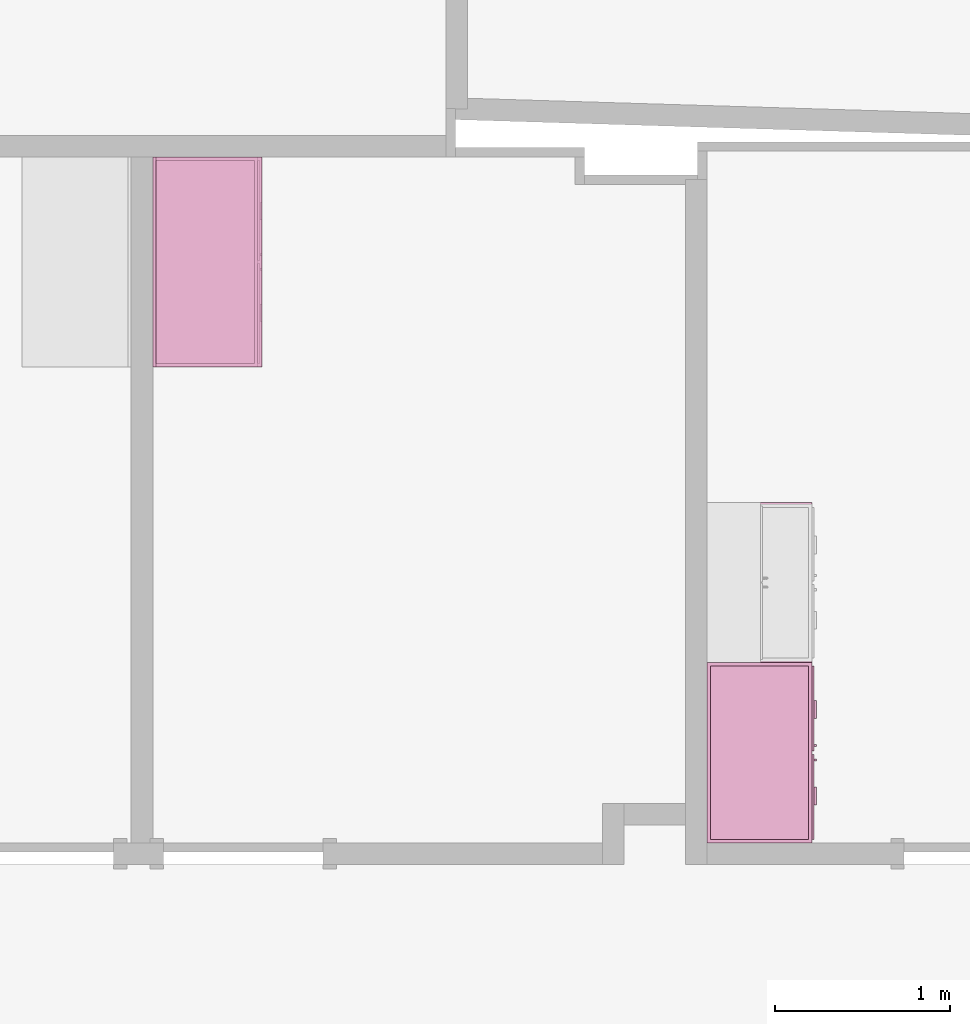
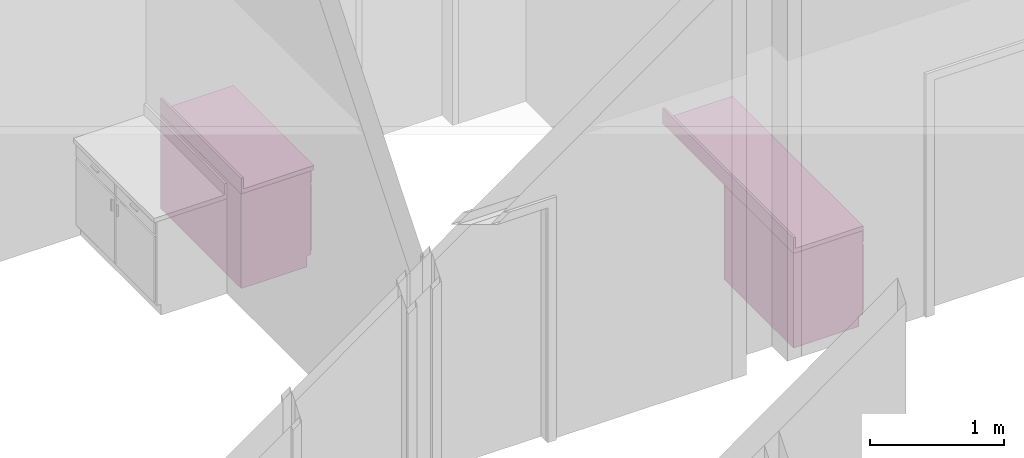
# One storey, part 79 of 82: 4 furnishings, 1 opening.
"""IFC2X3 building model written with IfcOpenShell, lengths in metres."""

from ifc_helpers import new_model, entity, si_unit, converted_unit, frame, frame_2d, origin, origin_2d_with_axis, place, context, project, spatial, polyline, circle_curve, parameter, trimmed, segment, composite_curve, rectangle, outline, extrude, face_set, surface_model, source, transform, mapped, type_object, type_shapes, element, save


model = new_model("IFC2X3")

# Units and contexts
model_context = context("Model", 3, precision=1e-09, world=origin())
plan_context = context("Plan", 3, precision=1e-09, world=origin())
ifc_project = project(units=[si_unit("LENGTHUNIT", "METRE"), si_unit("AREAUNIT", "SQUARE_METRE"), si_unit("VOLUMEUNIT", "CUBIC_METRE"), converted_unit("PLANEANGLEUNIT", "DEGREE", entity("IfcRatioMeasure", 0.01745329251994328), si_unit("PLANEANGLEUNIT", "RADIAN"), dimensions=[0, 0, 0, 0, 0, 0, 0]), si_unit("TIMEUNIT", "SECOND")], contexts=[model_context, plan_context])

# Site, building, storey, space
site_placement = place(None, origin())
site = spatial("IfcSite", under=ifc_project, at=site_placement, Name="Default", CompositionType="ELEMENT")
building_placement = place(site_placement, origin())
building = spatial("IfcBuilding", under=site, at=building_placement, CompositionType="ELEMENT")
storey_placement = place(building_placement, origin())
storey = spatial("IfcBuildingStorey", under=building, at=storey_placement, Name="First Floor", CompositionType="ELEMENT", Elevation=-3.531500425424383e-13)
space_1_placement = place(storey_placement, origin())
space_1 = spatial("IfcSpace", under=storey, at=space_1_placement, Name="1D07", CompositionType="ELEMENT", InteriorOrExteriorSpace="INTERNAL")

# Furnishing, opening
furniture_type_1 = type_object("IfcFurnitureType", Name="600mm Depth", AssemblyPlace="NOTDEFINED")
shared_shape_1 = source(origin(), model_context, "Body", "SweptSolid", [
    extrude(outline(polyline([(-0.0605333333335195, -0.2146833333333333), (0.08106666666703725, -0.2146833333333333), (0.08106666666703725, -0.1956333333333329), (-0.02053333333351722, -0.1956333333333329), (-0.02053333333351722, 0.4103166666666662), (-0.0605333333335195, 0.4103166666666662), (-0.0605333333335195, -0.2146833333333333)])), frame((-1.200462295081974, -0.2146833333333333, 0.920533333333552), z_axis=(1.0, 0.0, 0.0), x_axis=(0.0, 0.0, 1.0)), (0.0, 0.0, 1.0), 1.200000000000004),
])
type_shapes(furniture_type_1, [shared_shape_1])
furnishing_1_placement = place(space_1_placement, frame((-29.08600000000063, 44.70646229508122, 0.0), z_axis=(0.0, 0.0, 1.0), x_axis=(0.0, 1.0, 0.0)))
furnishing_1 = element("IfcFurnishingElement", 1, at=furnishing_1_placement, inside=space_1, type_object=furniture_type_1, Name="M_Counter Top w Sink Hole:600mm Depth:600mm Depth", ObjectType="600mm Depth", context=model_context, shape_type="MappedRepresentation", body=[
    mapped(shared_shape_1, transform((0.0, 0.0, 0.0), scale=1.0)),
])
opening_placement = place(space_1_placement, frame((-29.08600000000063, 44.70646229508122, 0.0), z_axis=(0.0, 0.0, 1.0), x_axis=(0.0, 1.0, 0.0)))
element("IfcOpeningElement", 2, at=opening_placement, cuts=furnishing_1, Name="M_Counter Top w Sink Hole:600mm Depth:600mm Depth:1", ObjectType="Opening", context=model_context, shape_type="SweptSolid", body=[
    extrude(outline(composite_curve([segment(polyline([(-0.255399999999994, -0.2083292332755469), (0.2554000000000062, -0.2083292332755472)]), True, "CONTINUOUS"), segment(trimmed(circle_curve(frame_2d((0.2554000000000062, -0.1575292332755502), x_axis=(-1.0, 0.0)), 0.05079999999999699), [parameter(89.99999999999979)], [parameter(180.0000000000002)], True, "PARAMETER"), True, "CONTINUOUS"), segment(polyline([(0.3062000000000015, -0.1575292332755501), (0.3062000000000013, 0.1575292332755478)]), True, "CONTINUOUS"), segment(trimmed(circle_curve(frame_2d((0.2554000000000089, 0.1575292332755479), x_axis=(-1.0, 0.0)), 0.0507999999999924), [parameter(179.9999999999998)], [parameter(269.9999999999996)], True, "PARAMETER"), True, "CONTINUOUS"), segment(polyline([(0.2554000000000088, 0.2083292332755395), (-0.2554000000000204, 0.2083292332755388)]), True, "CONTINUOUS"), segment(trimmed(circle_curve(frame_2d((-0.2554000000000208, 0.1575292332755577), x_axis=(-1.0, 0.0)), 0.05079999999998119), [parameter(269.9999999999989)], [parameter(359.9999999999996)], True, "PARAMETER"), True, "CONTINUOUS"), segment(polyline([(-0.3062000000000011, 0.1575292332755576), (-0.306200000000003, -0.1575292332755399)]), True, "CONTINUOUS"), segment(trimmed(circle_curve(frame_2d((-0.2553999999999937, -0.1575292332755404), x_axis=(-1.0, 0.0)), 0.05080000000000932), [parameter(359.9999999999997)], [parameter(90.00000000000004)], True, "PARAMETER"), True, "CONTINUOUS")], self_intersect=False)), frame((-0.3653589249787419, 0.6004622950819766, 0.8600000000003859), z_axis=(0.0, 0.0, 1.0), x_axis=(0.0, 1.0, 0.0)), (0.0, 0.0, 1.0), 0.04000000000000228),
])

# Furnishing
furniture_type_2 = type_object("IfcFurnitureType", Name="1200mm", AssemblyPlace="NOTDEFINED")
shared_shape_2 = source(origin(), model_context, "Body", "SurfaceModel", [
    surface_model("IfcFaceBasedSurfaceModel", [(1.180949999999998, 0.04445000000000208, 0.86000000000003), (1.180949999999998, 0.04445000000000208, 0.09999999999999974), (0.01905000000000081, 0.04445000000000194, 0.09999999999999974), (0.01905000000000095, 0.04445000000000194, 0.86000000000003), (1.2, 0.02540000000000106, 0.8600000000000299), (0.0, 0.02540000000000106, 0.8600000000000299), (1.2, 0.02540000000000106, 0.09999999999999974), (0.0, 0.02540000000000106, 0.0999999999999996), (0.01905000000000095, 0.6063499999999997, 0.86000000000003), (0.01905000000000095, 0.6063499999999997, 0.09999999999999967), (0.01905000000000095, 0.06040000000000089, 0.09999999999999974), (0.0, 0.6254000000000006, 0.8600000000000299), (0.0, 0.6254000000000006, 0.0), (0.0, 0.06040000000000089, 0.0), (0.0, 0.06040000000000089, 0.09999999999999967), (1.180949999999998, 0.6063499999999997, 0.86000000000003), (1.180949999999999, 0.6063499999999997, 0.09999999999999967), (1.2, 0.6254000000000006, 0.8600000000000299), (1.2, 0.6254000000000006, 0.0), (1.180949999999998, 0.06040000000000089, 0.09999999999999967), (1.2, 0.06040000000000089, 0.09999999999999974), (1.2, 0.06040000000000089, 0.0), (0.3603250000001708, 0.0, 0.8155500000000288), (0.3603250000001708, 0.0, 0.8028500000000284), (0.258725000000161, 0.0, 0.8028500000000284), (0.258725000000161, 0.0, 0.8155500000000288), (0.9412750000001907, 0.0, 0.8155500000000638), (0.9412750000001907, 0.0, 0.8028500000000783), (0.8396750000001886, 0.0, 0.8028500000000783), (0.8396750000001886, 0.0, 0.8155500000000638), (0.5650750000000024, 0.0, 0.6822000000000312), (0.5650750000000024, 0.0, 0.5806000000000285), (0.5523750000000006, 0.0, 0.5806000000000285), (0.5523750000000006, 0.0, 0.6822000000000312), (0.6476249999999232, 0.0, 0.6822000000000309), (0.6476249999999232, 0.0, 0.5806000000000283), (0.6349249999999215, 0.0, 0.5806000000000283), (0.6349249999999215, 0.0, 0.6822000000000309), (0.3603250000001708, 0.01270000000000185, 0.8155500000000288), (0.3603250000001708, 0.01270000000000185, 0.8028500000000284), (0.2587250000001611, 0.01270000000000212, 0.8028500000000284), (0.2587250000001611, 0.01270000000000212, 0.8155500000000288), (0.9412750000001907, 0.01269999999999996, 0.8155500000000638), (0.9412750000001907, 0.01269999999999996, 0.8028500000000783), (0.8396750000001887, 0.01270000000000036, 0.8028500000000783), (0.8396750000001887, 0.01270000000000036, 0.8155500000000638), (0.5650750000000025, 0.01270000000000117, 0.6822000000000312), (0.5650750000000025, 0.01270000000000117, 0.5806000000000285), (0.5523750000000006, 0.01270000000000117, 0.5806000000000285), (0.5523750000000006, 0.01270000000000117, 0.6822000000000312), (0.6476249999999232, 0.0127000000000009, 0.6822000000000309), (0.6476249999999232, 0.0127000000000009, 0.5806000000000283), (0.6349249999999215, 0.0127000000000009, 0.5806000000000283), (0.6349249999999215, 0.0127000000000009, 0.6822000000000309), (0.5904749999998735, 0.01270000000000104, 0.8409500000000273), (0.5904749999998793, 0.01270000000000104, 0.7393500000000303), (0.01905000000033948, 0.0127000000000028, 0.7393500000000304), (0.01905000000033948, 0.0127000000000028, 0.8409500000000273), (1.180950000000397, 0.01269999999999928, 0.8409500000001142), (1.180950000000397, 0.01269999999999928, 0.7393500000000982), (0.6095249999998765, 0.01270000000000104, 0.7393500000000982), (0.6095249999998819, 0.01270000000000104, 0.8409500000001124), (0.5904749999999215, 0.01270000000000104, 0.7203000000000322), (0.5904749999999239, 0.01270000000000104, 0.1190499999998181), (0.01905000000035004, 0.0127000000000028, 0.1190499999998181), (0.01905000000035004, 0.0127000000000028, 0.7203000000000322), (1.180950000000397, 0.01269999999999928, 0.7203000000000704), (1.180950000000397, 0.01269999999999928, 0.1190499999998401), (0.6095249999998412, 0.01270000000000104, 0.1190499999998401), (0.6095249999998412, 0.01270000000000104, 0.7203000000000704), (0.5904749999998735, 0.02540000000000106, 0.8409500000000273), (0.5904749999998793, 0.02540000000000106, 0.7393500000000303), (0.01905000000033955, 0.02540000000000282, 0.7393500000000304), (0.01905000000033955, 0.02540000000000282, 0.8409500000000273), (1.180950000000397, 0.02539999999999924, 0.8409500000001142), (1.180950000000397, 0.02539999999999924, 0.7393500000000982), (0.6095249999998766, 0.025400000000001, 0.7393500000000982), (0.6095249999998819, 0.025400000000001, 0.8409500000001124), (0.5904749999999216, 0.02540000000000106, 0.7203000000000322), (0.5904749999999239, 0.02540000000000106, 0.1190499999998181), (0.01905000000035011, 0.02540000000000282, 0.1190499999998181), (0.01905000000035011, 0.02540000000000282, 0.7203000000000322), (1.180950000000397, 0.02539999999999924, 0.7203000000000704), (1.180950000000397, 0.02539999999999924, 0.1190499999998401), (0.6095249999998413, 0.025400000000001, 0.1190499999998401), (0.6095249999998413, 0.025400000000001, 0.7203000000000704), (1.180949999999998, 0.6063499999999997, 0.1190499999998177), (1.180949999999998, 0.04445000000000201, 0.1190499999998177), (0.01905000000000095, 0.04445000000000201, 0.1190499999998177), (0.01905000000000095, 0.6063499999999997, 0.1190499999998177), (1.180949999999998, 0.6063499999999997, 0.09999999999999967), (1.180949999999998, 0.04445000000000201, 0.09999999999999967), (0.01905000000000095, 0.04445000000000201, 0.09999999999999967)], [face_set([[[0, 1, 2, 3]], [[0, 4, 5, 3]], [[4, 6, 7, 5]], [[2, 1, 6, 7]], [[3, 8, 9, 10, 2]], [[5, 11, 8, 3]], [[7, 5, 11, 12, 13, 14]], [[2, 7, 14, 10]], [[8, 15, 16, 9]], [[11, 17, 15, 8]], [[12, 11, 17, 18]], [[1, 19, 16, 15, 0]], [[0, 15, 17, 4]], [[4, 6, 20, 21, 18, 17]], [[6, 1, 19, 20]], [[10, 9, 16, 19]], [[18, 21, 13, 12]], [[13, 14, 10, 19, 20, 21]]]), face_set([[[22, 23, 24, 25]], [[26, 27, 28, 29]], [[30, 31, 32, 33]], [[34, 35, 36, 37]], [[38, 39, 40, 41]], [[42, 43, 44, 45]], [[46, 47, 48, 49]], [[50, 51, 52, 53]], [[25, 41, 38, 22]], [[24, 40, 41, 25]], [[23, 24, 40, 39]], [[22, 23, 39, 38]], [[29, 45, 42, 26]], [[28, 44, 45, 29]], [[27, 28, 44, 43]], [[26, 27, 43, 42]], [[33, 49, 46, 30]], [[32, 48, 49, 33]], [[31, 32, 48, 47]], [[30, 31, 47, 46]], [[37, 53, 50, 34]], [[36, 52, 53, 37]], [[35, 36, 52, 51]], [[34, 35, 51, 50]]]), face_set([[[54, 55, 56, 57]], [[58, 59, 60, 61]], [[62, 63, 64, 65]], [[66, 67, 68, 69]], [[70, 71, 72, 73]], [[74, 75, 76, 77]], [[78, 79, 80, 81]], [[82, 83, 84, 85]], [[57, 73, 70, 54]], [[56, 57, 73, 72]], [[55, 56, 72, 71]], [[54, 55, 71, 70]], [[61, 77, 74, 58]], [[60, 76, 77, 61]], [[59, 60, 76, 75]], [[58, 59, 75, 74]], [[65, 81, 78, 62]], [[64, 65, 81, 80]], [[63, 64, 80, 79]], [[62, 63, 79, 78]], [[69, 85, 82, 66]], [[68, 84, 85, 69]], [[67, 68, 84, 83]], [[66, 67, 83, 82]]]), face_set([[[86, 87, 88, 89]], [[90, 91, 92, 9]], [[89, 86, 90, 9]], [[88, 89, 9, 92]], [[87, 91, 92, 88]], [[86, 87, 91, 90]]])]),
])
type_shapes(furniture_type_2, [shared_shape_2])
furnishing_2_placement = place(space_1_placement, frame((-28.46084908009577, 43.50599999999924, 0.0), z_axis=(0.0, 0.0, 1.0), x_axis=(0.0, 1.0, 0.0)))
element("IfcFurnishingElement", 3, at=furnishing_2_placement, inside=space_1, type_object=furniture_type_2, Name="M_Base Cabinet-Double Door & 2 Drawer:1200mm:1200mm", ObjectType="1200mm", context=model_context, shape_type="MappedRepresentation", body=[
    mapped(shared_shape_2, transform((0.0, 0.0, 0.0), scale=1.0)),
])

# Space
space_2_placement = place(storey_placement, origin())
space_2 = spatial("IfcSpace", under=storey, at=space_2_placement, Name="1D06", CompositionType="ELEMENT", InteriorOrExteriorSpace="INTERNAL")

# Furnishings
furniture_type_3 = type_object("IfcFurnitureType", Name="1030mm", AssemblyPlace="NOTDEFINED")
shared_shape_3 = source(origin(), model_context, "Body", "SurfaceModel", [
    surface_model("IfcFaceBasedSurfaceModel", [(1.010949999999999, 0.04445000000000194, 0.86000000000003), (1.010949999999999, 0.04445000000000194, 0.09999999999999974), (0.01905000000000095, 0.04445000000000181, 0.09999999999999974), (0.01905000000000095, 0.04445000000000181, 0.86000000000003), (1.03, 0.02540000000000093, 0.8600000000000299), (0.0, 0.02540000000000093, 0.8600000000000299), (1.03, 0.02540000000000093, 0.09999999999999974), (0.0, 0.025400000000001, 0.0999999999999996), (0.01905000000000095, 0.6063499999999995, 0.86000000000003), (0.01905000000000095, 0.6063499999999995, 0.09999999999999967), (0.01905000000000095, 0.06040000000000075, 0.09999999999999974), (0.0, 0.6254000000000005, 0.8600000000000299), (0.0, 0.6254000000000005, 0.0), (0.0, 0.06040000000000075, 0.0), (0.0, 0.06040000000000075, 0.09999999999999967), (1.010949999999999, 0.6063499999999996, 0.86000000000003), (1.010949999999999, 0.6063499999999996, 0.09999999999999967), (1.03, 0.6254000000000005, 0.8600000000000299), (1.03, 0.6254000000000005, 0.0), (1.010949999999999, 0.06040000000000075, 0.09999999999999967), (1.03, 0.06040000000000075, 0.09999999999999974), (1.03, 0.06040000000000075, 0.0), (0.3178250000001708, 0.0, 0.8155500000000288), (0.3178250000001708, 0.0, 0.8028500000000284), (0.2162250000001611, 0.0, 0.8028500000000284), (0.2162250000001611, 0.0, 0.8155500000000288), (0.8137750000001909, 0.0, 0.8155500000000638), (0.8137750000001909, 0.0, 0.8028500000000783), (0.7121750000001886, 0.0, 0.8028500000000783), (0.7121750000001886, 0.0, 0.8155500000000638), (0.4800750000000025, 0.0, 0.6822000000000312), (0.4800750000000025, 0.0, 0.5806000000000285), (0.4673750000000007, 0.0, 0.5806000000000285), (0.4673750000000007, 0.0, 0.6822000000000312), (0.5626249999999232, 0.0, 0.6822000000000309), (0.5626249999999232, 0.0, 0.5806000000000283), (0.5499249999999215, 0.0, 0.5806000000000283), (0.5499249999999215, 0.0, 0.6822000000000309), (0.3178250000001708, 0.01270000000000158, 0.8155500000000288), (0.3178250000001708, 0.01270000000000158, 0.8028500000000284), (0.2162250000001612, 0.01270000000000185, 0.8028500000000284), (0.2162250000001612, 0.01270000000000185, 0.8155500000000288), (0.8137750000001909, 0.01269999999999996, 0.8155500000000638), (0.8137750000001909, 0.01269999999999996, 0.8028500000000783), (0.7121750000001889, 0.01270000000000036, 0.8028500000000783), (0.7121750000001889, 0.01270000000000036, 0.8155500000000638), (0.4800750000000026, 0.01270000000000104, 0.6822000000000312), (0.4800750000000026, 0.01270000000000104, 0.5806000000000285), (0.4673750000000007, 0.01270000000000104, 0.5806000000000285), (0.4673750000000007, 0.01270000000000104, 0.6822000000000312), (0.5626249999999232, 0.01270000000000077, 0.6822000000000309), (0.5626249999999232, 0.01270000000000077, 0.5806000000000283), (0.5499249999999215, 0.01270000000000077, 0.5806000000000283), (0.5499249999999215, 0.01270000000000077, 0.6822000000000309), (0.5054749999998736, 0.0127000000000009, 0.8409500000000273), (0.5054749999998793, 0.0127000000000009, 0.7393500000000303), (0.01905000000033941, 0.01270000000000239, 0.7393500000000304), (0.01905000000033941, 0.01270000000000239, 0.8409500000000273), (1.010950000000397, 0.01269999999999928, 0.8409500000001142), (1.010950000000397, 0.01269999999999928, 0.7393500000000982), (0.5245249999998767, 0.01270000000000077, 0.7393500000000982), (0.5245249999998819, 0.01270000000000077, 0.8409500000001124), (0.5054749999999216, 0.0127000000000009, 0.7203000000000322), (0.505474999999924, 0.0127000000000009, 0.1190499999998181), (0.01905000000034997, 0.01270000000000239, 0.1190499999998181), (0.01905000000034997, 0.01270000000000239, 0.7203000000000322), (1.010950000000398, 0.01269999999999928, 0.7203000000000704), (1.010950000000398, 0.01269999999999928, 0.1190499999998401), (0.5245249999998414, 0.01270000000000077, 0.1190499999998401), (0.5245249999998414, 0.01270000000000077, 0.7203000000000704), (0.5054749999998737, 0.02540000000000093, 0.8409500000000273), (0.5054749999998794, 0.02540000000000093, 0.7393500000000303), (0.01905000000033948, 0.02540000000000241, 0.7393500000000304), (0.01905000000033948, 0.02540000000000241, 0.8409500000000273), (1.010950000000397, 0.02539999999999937, 0.8409500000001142), (1.010950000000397, 0.02539999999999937, 0.7393500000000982), (0.5245249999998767, 0.02540000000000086, 0.7393500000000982), (0.524524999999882, 0.02540000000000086, 0.8409500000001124), (0.5054749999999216, 0.02540000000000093, 0.7203000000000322), (0.5054749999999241, 0.02540000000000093, 0.1190499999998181), (0.01905000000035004, 0.02540000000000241, 0.1190499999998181), (0.01905000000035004, 0.02540000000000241, 0.7203000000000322), (1.010950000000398, 0.02539999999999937, 0.7203000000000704), (1.010950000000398, 0.02539999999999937, 0.1190499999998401), (0.5245249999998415, 0.02540000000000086, 0.1190499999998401), (0.5245249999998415, 0.02540000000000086, 0.7203000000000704), (1.010949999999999, 0.6063499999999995, 0.1190499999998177), (1.010949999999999, 0.04445000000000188, 0.1190499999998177), (0.01905000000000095, 0.04445000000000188, 0.1190499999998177), (0.01905000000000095, 0.6063499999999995, 0.1190499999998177), (1.010949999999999, 0.6063499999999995, 0.09999999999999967), (1.010949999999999, 0.04445000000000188, 0.09999999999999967), (0.01905000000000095, 0.04445000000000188, 0.09999999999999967)], [face_set([[[0, 1, 2, 3]], [[0, 4, 5, 3]], [[4, 6, 7, 5]], [[2, 1, 6, 7]], [[3, 8, 9, 10, 2]], [[5, 11, 8, 3]], [[7, 5, 11, 12, 13, 14]], [[2, 7, 14, 10]], [[8, 15, 16, 9]], [[11, 17, 15, 8]], [[12, 11, 17, 18]], [[1, 19, 16, 15, 0]], [[0, 15, 17, 4]], [[4, 6, 20, 21, 18, 17]], [[6, 1, 19, 20]], [[10, 9, 16, 19]], [[18, 21, 13, 12]], [[13, 14, 10, 19, 20, 21]]]), face_set([[[22, 23, 24, 25]], [[26, 27, 28, 29]], [[30, 31, 32, 33]], [[34, 35, 36, 37]], [[38, 39, 40, 41]], [[42, 43, 44, 45]], [[46, 47, 48, 49]], [[50, 51, 52, 53]], [[25, 41, 38, 22]], [[24, 40, 41, 25]], [[23, 24, 40, 39]], [[22, 23, 39, 38]], [[29, 45, 42, 26]], [[28, 44, 45, 29]], [[27, 28, 44, 43]], [[26, 27, 43, 42]], [[33, 49, 46, 30]], [[32, 48, 49, 33]], [[31, 32, 48, 47]], [[30, 31, 47, 46]], [[37, 53, 50, 34]], [[36, 52, 53, 37]], [[35, 36, 52, 51]], [[34, 35, 51, 50]]]), face_set([[[54, 55, 56, 57]], [[58, 59, 60, 61]], [[62, 63, 64, 65]], [[66, 67, 68, 69]], [[70, 71, 72, 73]], [[74, 75, 76, 77]], [[78, 79, 80, 81]], [[82, 83, 84, 85]], [[57, 73, 70, 54]], [[56, 57, 73, 72]], [[55, 56, 72, 71]], [[54, 55, 71, 70]], [[61, 77, 74, 58]], [[60, 76, 77, 61]], [[59, 60, 76, 75]], [[58, 59, 75, 74]], [[65, 81, 78, 62]], [[64, 65, 81, 80]], [[63, 64, 80, 79]], [[62, 63, 79, 78]], [[69, 85, 82, 66]], [[68, 84, 85, 69]], [[67, 68, 84, 83]], [[66, 67, 83, 82]]]), face_set([[[86, 87, 88, 89]], [[90, 91, 92, 9]], [[89, 86, 90, 9]], [[88, 89, 9, 92]], [[87, 91, 92, 88]], [[86, 87, 91, 90]]])]),
])
type_shapes(furniture_type_3, [shared_shape_3])
furnishing_3_placement = place(space_2_placement, frame((-25.29060000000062, 40.78450089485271, 0.0), z_axis=(0.0, 0.0, 1.0), x_axis=(0.0, 1.0, 0.0)))
element("IfcFurnishingElement", 4, at=furnishing_3_placement, inside=space_2, type_object=furniture_type_3, Name="M_Base Cabinet-Double Door & 2 Drawer:1030mm:1030mm", ObjectType="1030mm", context=model_context, shape_type="MappedRepresentation", body=[
    mapped(shared_shape_3, transform((0.0, 0.0, 0.0), scale=1.0)),
])
furniture_type_4 = type_object("IfcFurnitureType", Name="600mm Depth", AssemblyPlace="NOTDEFINED")
shared_shape_4 = source(origin(), model_context, "Body", "SweptSolid", [
    extrude(rectangle(XDim=0.01905000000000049, YDim=1.94600089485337, at=origin_2d_with_axis()), frame((-0.2274618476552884, -0.009525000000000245, 0.9000000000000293), z_axis=(0.0, 0.0, 1.0), x_axis=(0.0, -1.0, 0.0)), (0.0, 0.0, 1.0), 0.1016000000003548),
    extrude(rectangle(XDim=1.94600089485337, YDim=0.5999999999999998, at=origin_2d_with_axis()), frame((-0.2274618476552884, -0.2999999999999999, 0.8600000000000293), z_axis=(0.0, 0.0, 1.0), x_axis=(-1.0, 0.0, 0.0)), (0.0, 0.0, 1.0), 0.04000000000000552),
])
type_shapes(furniture_type_4, [shared_shape_4])
furnishing_4_placement = place(space_2_placement, frame((-25.91600000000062, 41.98446229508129, 0.0), z_axis=(0.0, 0.0, 1.0), x_axis=(0.0, 1.0, 0.0)))
element("IfcFurnishingElement", 5, at=furnishing_4_placement, inside=space_2, type_object=furniture_type_4, Name="M_Counter Top:600mm Depth:600mm Depth", ObjectType="600mm Depth", context=model_context, shape_type="MappedRepresentation", body=[
    mapped(shared_shape_4, transform((0.0, 0.0, 0.0), scale=1.0)),
])

save(model, "model.ifc")
